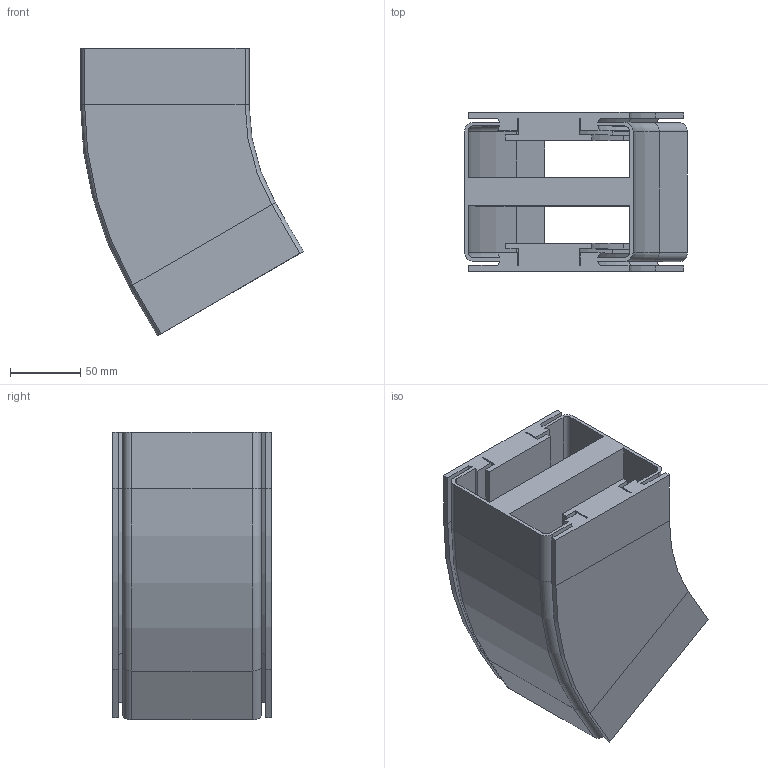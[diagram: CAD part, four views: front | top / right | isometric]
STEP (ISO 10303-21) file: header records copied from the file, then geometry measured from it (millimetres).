
FILE_DESCRIPTION (( 'STEP AP214' ), '1' );
FILE_NAME ('VC.120 Horizontale bochtsectie.R200 30.STEP', '2017-02-08T07:48:13', ( '' ), ( '' ), 'SwSTEP 2.0', 'SolidWorks 2016', '' );
FILE_SCHEMA (( 'AUTOMOTIVE_DESIGN' ));
Length unit declared in the file: millimetre
Products named in the file (1): VC.120 Horizontale bochtsectie.R200 30
Bounding box: 158.76 x 113 x 204.64 mm (x, y, z)
Volume: 1089131.7 mm3; surface area: 275148.5 mm2
Topology: 1 solids, 1 shells, 206 faces, 476 edges, 272 vertices
Faces by surface type: plane 152, cylinder 38, cone 8, torus 8
Entity records: 5674 total; most frequent: DIRECTION 990, CARTESIAN_POINT 955, ORIENTED_EDGE 952, EDGE_CURVE 476, LINE 376, VECTOR 376, AXIS2_PLACEMENT_3D 307, VERTEX_POINT 272
